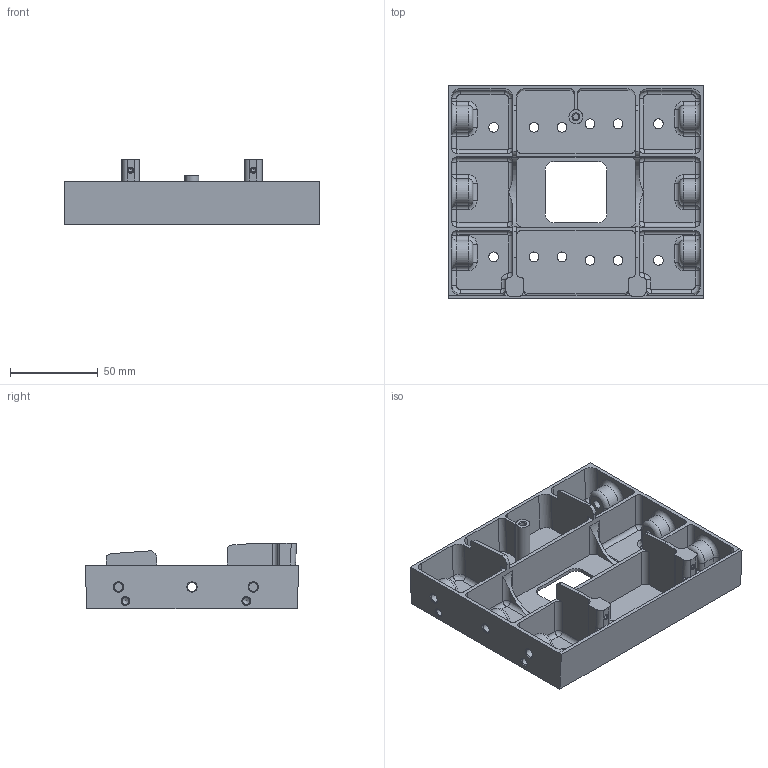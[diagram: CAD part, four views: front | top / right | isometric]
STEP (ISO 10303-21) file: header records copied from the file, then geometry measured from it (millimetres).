
FILE_DESCRIPTION(/* description */ ('STEP AP242 Edition 2','CAx-IF Rec.Pracs.---Representation and Presentation of Product Manufacturing Information (PMI)---4.0---2014-10-13','CAx-IF Rec.Pracs.---3D Tessellated Geometry---0.4---2014-09-14','2;1','CAx-IF Rec.Pracs.---User Defined Attributes---1.5---2016-08-15'),/* implementation_level */ '2;1');
FILE_NAME(/* name */ 'Assy_ForMFG - KD-B-102B_TORSO_BTM',/* time_stamp */ '2026-05-15T19:56:25Z',/* author */ (''),/* organization */ (''),/* preprocessor_version */ 'ST-DEVELOPER v20',/* originating_system */ 'ONSHAPE BY PTC INC, 1.215',/* authorisation */ ' ');
FILE_SCHEMA (('AP242_MANAGED_MODEL_BASED_3D_ENGINEERING_MIM_LF { 1 0 10303 442 3 1 4 }'));
Length unit declared in the file: metre
Products named in the file (1): KD-B-102B_TORSO_BTM
Bounding box: 146 x 122.24 x 37.5 mm (x, y, z)
Volume: 105846.6 mm3; surface area: 83044.8 mm2
Topology: 1 solids, 1 shells, 352 faces, 901 edges, 540 vertices
Faces by surface type: cylinder 168, plane 101, torus 44, cone 19, sphere 12, bspline 8
Full cylindrical faces by diameter (mm): 2.5 x2, 3.5 x1, 4 x4, 5 x6, 5.6 x12, 8 x1
Entity records: 10386 total; most frequent: CARTESIAN_POINT 1953, DIRECTION 1880, ORIENTED_EDGE 1640, EDGE_CURVE 820, AXIS2_PLACEMENT_3D 735, VERTEX_POINT 522, FACE_BOUND 442, EDGE_LOOP 436
